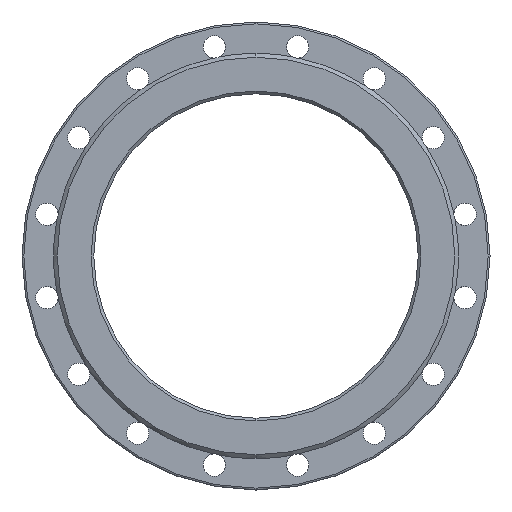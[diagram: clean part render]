
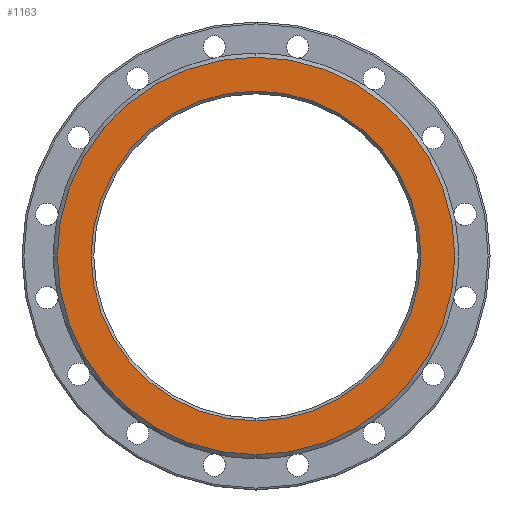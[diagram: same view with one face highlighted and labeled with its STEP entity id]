
A CAD part, left-side view. The second image highlights one B-rep face of the part: STEP entity #1163.
In plain terms, the highlighted planar face has unit normal (-1, 0, 0).
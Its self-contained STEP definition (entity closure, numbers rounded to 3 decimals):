
#20 = DIRECTION ( 'NONE',  ( -1., 0., 0. ) ) ;
#134 = VERTEX_POINT ( 'NONE', #708 ) ;
#255 = AXIS2_PLACEMENT_3D ( 'NONE', #4065, #569, #5237 ) ;
#394 = PLANE ( 'NONE',  #4390 ) ;
#408 = CARTESIAN_POINT ( 'NONE',  ( -250., 0., 0. ) ) ;
#427 = CARTESIAN_POINT ( 'NONE',  ( -250., 175., 0. ) ) ;
#528 = DIRECTION ( 'NONE',  ( 0., 0., -1. ) ) ;
#569 = DIRECTION ( 'NONE',  ( -1., 0., 0. ) ) ;
#708 = CARTESIAN_POINT ( 'NONE',  ( -250., 0., 178. ) ) ;
#749 = EDGE_CURVE ( 'Defeatured_0_4+Defeatured_0_96+Defeatured_0_96+Defeatured_0_96', #134, #4259, #2871, .T. ) ;
#1108 = CARTESIAN_POINT ( 'NONE',  ( -250., 0., -178. ) ) ;
#1163 = ADVANCED_FACE ( 'Defeatured_0_4', ( #3540, #5027 ), #394, .F. ) ;
#1275 = EDGE_LOOP ( 'NONE', ( #3902, #4423 ) ) ;
#1492 = CIRCLE ( 'NONE', #5156, 178. ) ;
#1704 = CARTESIAN_POINT ( 'NONE',  ( -250., 0., 0. ) ) ;
#2151 = CARTESIAN_POINT ( 'NONE',  ( -250., 0., 214.5 ) ) ;
#2468 = DIRECTION ( 'NONE',  ( 1., 0., 0. ) ) ;
#2755 = DIRECTION ( 'NONE',  ( 0., 0., 1. ) ) ;
#2863 = EDGE_CURVE ( 'Defeatured_0_4+Defeatured_0_96+Defeatured_0_96+Defeatured_0_96', #4259, #134, #1492, .T. ) ;
#2871 = CIRCLE ( 'NONE', #6535, 178. ) ;
#2907 = DIRECTION ( 'NONE',  ( 0., 0., -1. ) ) ;
#2960 = VERTEX_POINT ( 'NONE', #2151 ) ;
#3094 = CARTESIAN_POINT ( 'NONE',  ( -250., 0., 0. ) ) ;
#3116 = ORIENTED_EDGE ( 'NONE', *, *, #2863, .T. ) ;
#3168 = CIRCLE ( 'NONE', #255, 214.5 ) ;
#3540 = FACE_BOUND ( 'NONE', #5228, .T. ) ;
#3902 = ORIENTED_EDGE ( 'NONE', *, *, #4284, .T. ) ;
#4065 = CARTESIAN_POINT ( 'NONE',  ( -250., 0., 0. ) ) ;
#4152 = DIRECTION ( 'NONE',  ( 1., 0., 0. ) ) ;
#4194 = CIRCLE ( 'NONE', #5588, 214.5 ) ;
#4259 = VERTEX_POINT ( 'NONE', #1108 ) ;
#4284 = EDGE_CURVE ( 'Defeatured_0_4+Defeatured_0_0+Defeatured_0_0+Defeatured_0_0', #6385, #2960, #3168, .T. ) ;
#4390 = AXIS2_PLACEMENT_3D ( 'NONE', #427, #4524, #2907 ) ;
#4423 = ORIENTED_EDGE ( 'NONE', *, *, #6531, .T. ) ;
#4524 = DIRECTION ( 'NONE',  ( 1., 0., 0. ) ) ;
#4593 = CARTESIAN_POINT ( 'NONE',  ( -250., 0., -214.5 ) ) ;
#5027 = FACE_OUTER_BOUND ( 'NONE', #1275, .T. ) ;
#5156 = AXIS2_PLACEMENT_3D ( 'NONE', #3094, #4152, #528 ) ;
#5228 = EDGE_LOOP ( 'NONE', ( #5886, #3116 ) ) ;
#5237 = DIRECTION ( 'NONE',  ( 0., 0., 1. ) ) ;
#5588 = AXIS2_PLACEMENT_3D ( 'NONE', #1704, #20, #2755 ) ;
#5886 = ORIENTED_EDGE ( 'NONE', *, *, #749, .T. ) ;
#6385 = VERTEX_POINT ( 'NONE', #4593 ) ;
#6531 = EDGE_CURVE ( 'Defeatured_0_4+Defeatured_0_0+Defeatured_0_0+Defeatured_0_0', #2960, #6385, #4194, .T. ) ;
#6535 = AXIS2_PLACEMENT_3D ( 'NONE', #408, #2468, #6587 ) ;
#6587 = DIRECTION ( 'NONE',  ( 0., 0., -1. ) ) ;
